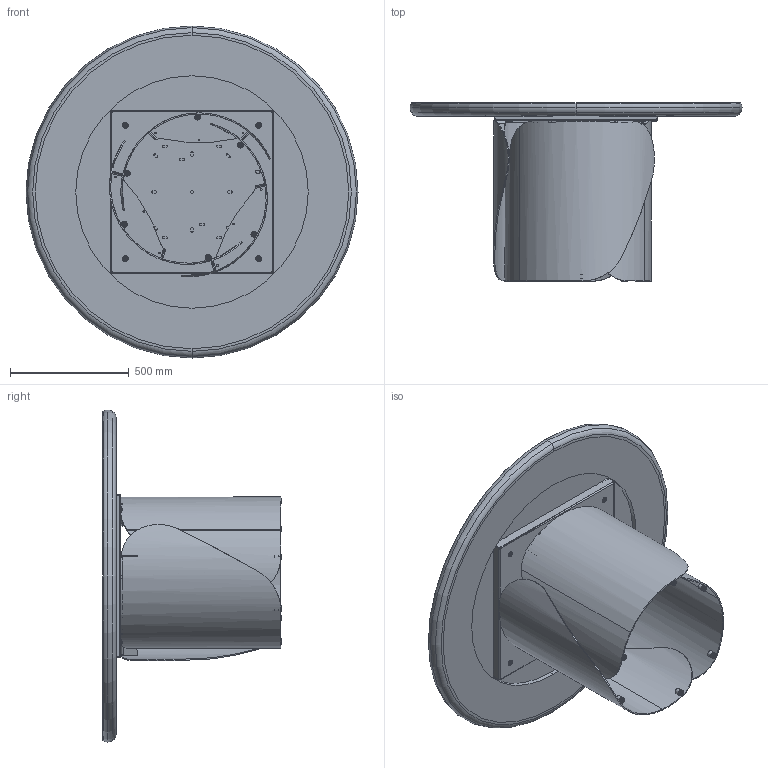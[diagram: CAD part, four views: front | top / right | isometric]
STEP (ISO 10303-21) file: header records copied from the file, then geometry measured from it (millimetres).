
FILE_DESCRIPTION (( 'STEP AP203' ), '1' );
FILE_NAME ('ON06K_Onda_d.140_King.STEP', '2024-07-31T14:19:32', ( '' ), ( '' ), 'SwSTEP 2.0', 'SolidWorks 2022', '' );
FILE_SCHEMA (( 'CONFIG_CONTROL_DESIGN' ));
Length unit declared in the file: millimetre
Products named in the file (16): PIEDINO PER ONDA; TTAV0801-02-TELAIO UNIVERSALE TONDO-VASSOIO; ASSIEME PIANO KING_PIANO+CERAMICA DIAM140; OND000000_02-00-CILINDRO DI FISSAGGIO Ø25X17 M8; OND000000-03-ONDA BASE GREZZA; COLLO TELAIO UNIVERSALE TTAV0801 CON FERRAMENTA_MTG TOP LEGNO-MARMO-KING; W92-01-PIANO KING BORDO Ø140 SAGOMATO LACCATO; rondella M8_8X24; K92-00-PIANO SOLO CERAMICA D.136.7cm X PIANO C BORDO; M8xXXmm_M8x55mm; ON06K_Onda_d.140_King; TTAV0801 TELAIO UNIVERSALE TONDO-PIASTRINA; OND000000_03-00-LAMIERA CURVATA PRINCIPALE_OND00000X-00-ONDA BASE GREZZA PROTOTIPO; COLLO BASE ONDA SINGOLA CON FERRAMENTA; OND000000_01-00-PIASTRA SUPERIORE BASE ONDA; TTAV0801-02-TELAIO UNIVERSALE TONDO
Assembly tree (28 placements, depth 4):
  ON06K_Onda_d.140_King
    COLLO TELAIO UNIVERSALE TTAV0801 CON FERRAMENTA_MTG TOP LEGNO-MARMO-KING
      TTAV0801-02-TELAIO UNIVERSALE TONDO
        TTAV0801-02-TELAIO UNIVERSALE TONDO-VASSOIO
        TTAV0801 TELAIO UNIVERSALE TONDO-PIASTRINA  x4
      rondella M8_8X24  x4
      M8xXXmm_M8x55mm  x4
    COLLO BASE ONDA SINGOLA CON FERRAMENTA  x3
      OND000000-03-ONDA BASE GREZZA
        OND000000_03-00-LAMIERA CURVATA PRINCIPALE_OND00000X-00-ONDA BASE GREZZA PROTOTIPO
        OND000000_01-00-PIASTRA SUPERIORE BASE ONDA
        OND000000_02-00-CILINDRO DI FISSAGGIO Ø25X17 M8  x2
      PIEDINO PER ONDA
    ASSIEME PIANO KING_PIANO+CERAMICA DIAM140
      W92-01-PIANO KING BORDO Ø140 SAGOMATO LACCATO
      K92-00-PIANO SOLO CERAMICA D.136.7cm X PIANO C BORDO
Bounding box: 1400 x 752 x 1400 mm (x, y, z)
Volume: 79804882.8 mm3; surface area: 10905793.6 mm2
Topology: 39 solids, 39 shells, 1155 faces, 2845 edges, 1810 vertices
Faces by surface type: plane 486, cylinder 475, torus 82, bspline 60, cone 52
Entity records: 19437 total; most frequent: CARTESIAN_POINT 4592, DIRECTION 2741, ORIENTED_EDGE 2624, EDGE_CURVE 1312, AXIS2_PLACEMENT_3D 1003, VERTEX_POINT 844, LINE 735, VECTOR 735
